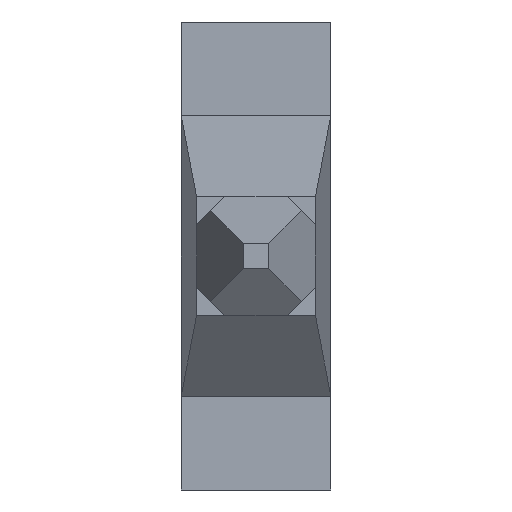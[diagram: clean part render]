
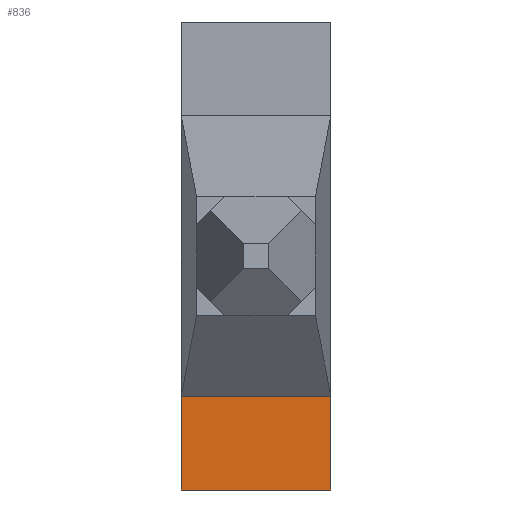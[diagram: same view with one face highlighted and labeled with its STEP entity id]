
A CAD part, front view. The second image highlights one B-rep face of the part: STEP entity #836.
In plain terms, the highlighted planar face has unit normal (0, -1, 0).
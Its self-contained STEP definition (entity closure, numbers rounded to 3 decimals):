
#54=DIRECTION('',(0.,0.,-1.));
#55=VECTOR('',#54,0.5);
#56=CARTESIAN_POINT('',(0.8,0.,-0.75));
#57=LINE('',#56,#55);
#174=DIRECTION('',(0.,0.,-1.));
#175=VECTOR('',#174,0.5);
#176=CARTESIAN_POINT('',(0.,0.,-0.75));
#177=LINE('',#176,#175);
#210=DIRECTION('',(1.,0.,0.));
#211=VECTOR('',#210,0.8);
#212=CARTESIAN_POINT('',(0.,0.,-0.75));
#213=LINE('',#212,#211);
#410=DIRECTION('',(1.,0.,0.));
#411=VECTOR('',#410,0.8);
#412=CARTESIAN_POINT('',(0.,0.,-1.25));
#413=LINE('',#412,#411);
#434=CARTESIAN_POINT('',(0.,0.,-1.25));
#436=VERTEX_POINT('',#434);
#446=CARTESIAN_POINT('',(0.8,0.,-1.25));
#448=VERTEX_POINT('',#446);
#458=CARTESIAN_POINT('',(0.,0.,-0.75));
#459=CARTESIAN_POINT('',(0.8,0.,-0.75));
#460=VERTEX_POINT('',#458);
#461=VERTEX_POINT('',#459);
#823=CARTESIAN_POINT('',(0.,0.,1.25));
#824=DIRECTION('',(0.,-1.,0.));
#825=DIRECTION('',(0.,0.,-1.));
#826=AXIS2_PLACEMENT_3D('',#823,#824,#825);
#827=PLANE('',#826);
#829=ORIENTED_EDGE('',*,*,#828,.T.);
#830=ORIENTED_EDGE('',*,*,#626,.T.);
#832=ORIENTED_EDGE('',*,*,#831,.F.);
#833=ORIENTED_EDGE('',*,*,#769,.F.);
#834=EDGE_LOOP('',(#829,#830,#832,#833));
#835=FACE_OUTER_BOUND('',#834,.F.);
#836=ADVANCED_FACE('',(#835),#827,.T.);
#626=EDGE_CURVE('',#461,#448,#57,.T.);
#769=EDGE_CURVE('',#460,#436,#177,.T.);
#828=EDGE_CURVE('',#460,#461,#213,.T.);
#831=EDGE_CURVE('',#436,#448,#413,.T.);
